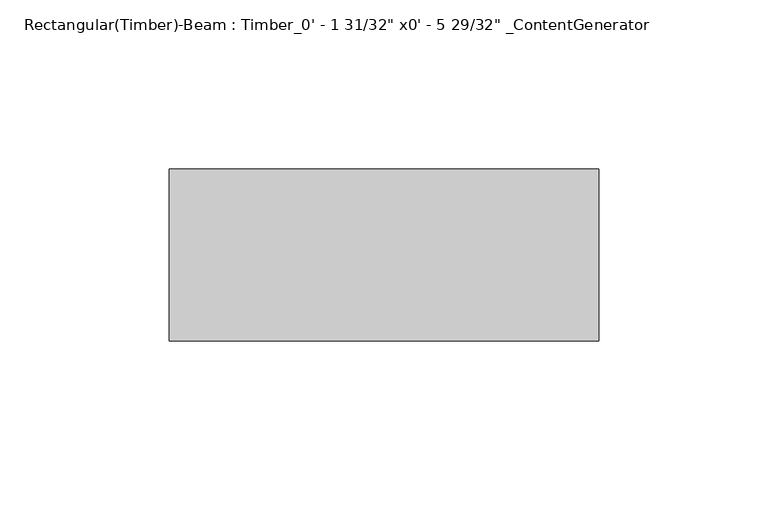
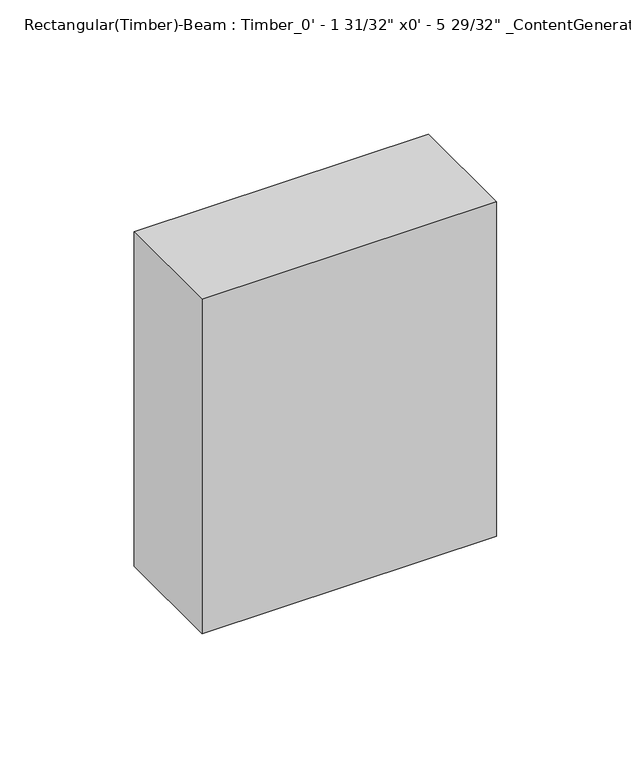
"""IFC4 building model written with IfcOpenShell, lengths in millimetres: beam geometry."""

from ifc_helpers import new_model, si_unit, frame, origin, place, context, project, spatial, polyline, outline, extrude, source, transform, mapped, element, save


def beam_c305210a(model_context):
    return source(origin(), model_context, "Body", "SweptSolid", [
        extrude(outline(polyline([(63.505, 25.4), (63.505, -25.4), (-63.505, -25.4), (-63.505, 25.4), (63.505, 25.4)])), frame((0.0, 0.0, -76.2), z_axis=(0.0, 0.0, 1.0), x_axis=(1.0, 0.0, 0.0)), (0.0, 0.0, 1.0), 152.4),
    ])


if __name__ == "__main__":
    model = new_model("IFC4")
    model_context = context("Model", 3, world=origin())
    ifc_project = project(units=[si_unit("LENGTHUNIT", "METRE", prefix="MILLI")], contexts=[model_context])
    site = spatial("IfcSite", under=ifc_project)
    building = spatial("IfcBuilding", under=site)
    placement = place(None, origin())
    beam_shape = beam_c305210a(model_context)
    element("IfcBeam", 1, ObjectType="Rectangular(Timber)-Beam : Timber_0' - 1 31/32\" x0' - 5 29/32\" _ContentGenerator", at=placement, inside=building, context=model_context, shape_type="MappedRepresentation", body=[
        mapped(beam_shape, transform((0.0, 0.0, 0.0), x_axis=(1.0, 0.0, 0.0), y_axis=(0.0, 1.0, 0.0), z_axis=(0.0, 0.0, 1.0))),
    ])
    save(model, "model.ifc")
